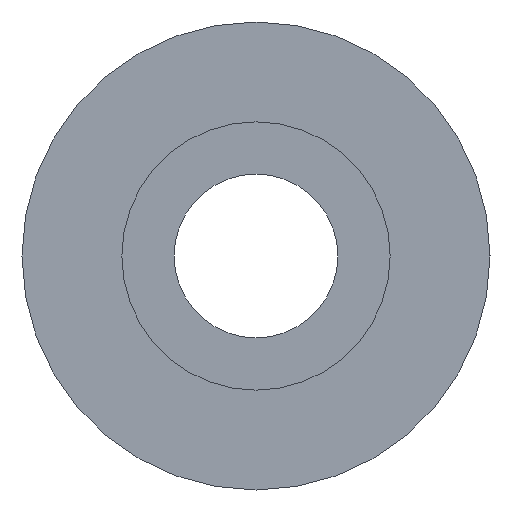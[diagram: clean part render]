
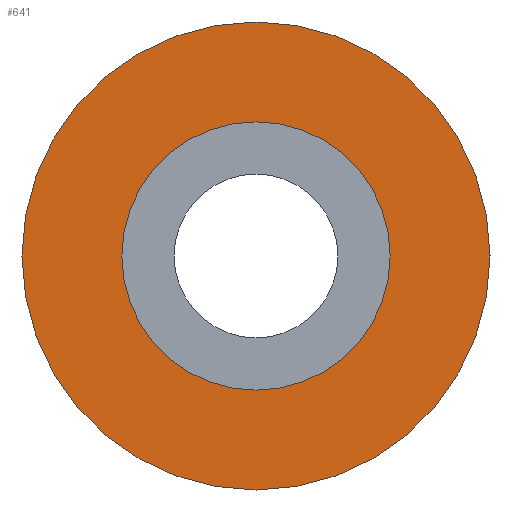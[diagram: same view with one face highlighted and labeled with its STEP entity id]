
A CAD part, left-side view. The second image highlights one B-rep face of the part: STEP entity #641.
In plain terms, the highlighted planar face has unit normal (-1, 0, 0).
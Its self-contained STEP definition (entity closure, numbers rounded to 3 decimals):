
#471=CARTESIAN_POINT('',(0.0,15.0,0.0));
#472=VERTEX_POINT('',#471);
#473=CARTESIAN_POINT('',(0.,0.,0.0));
#474=DIRECTION('',(1.0,0.0,0.0));
#475=DIRECTION('',(0.0,1.0,0.0));
#476=AXIS2_PLACEMENT_3D('',#473,#474,#475);
#477=CIRCLE('',#476,15.0);
#478=EDGE_CURVE('',#472,#472,#477,.T.);
#615=CARTESIAN_POINT('',(0.0,8.6,0.0));
#616=VERTEX_POINT('',#615);
#617=CARTESIAN_POINT('',(0.,0.,0.0));
#618=DIRECTION('',(1.0,0.0,0.0));
#619=DIRECTION('',(0.0,1.0,0.0));
#620=AXIS2_PLACEMENT_3D('',#617,#618,#619);
#621=CIRCLE('',#620,8.6);
#622=EDGE_CURVE('',#616,#616,#621,.T.);
#630=CARTESIAN_POINT('',(0.0,11.8,0.0));
#631=DIRECTION('',(-1.0,0.0,0.0));
#632=DIRECTION('',(0.0,0.0,1.0));
#633=AXIS2_PLACEMENT_3D('',#630,#631,#632);
#634=PLANE('',#633);
#635=ORIENTED_EDGE('',*,*,#478,.F.);
#636=EDGE_LOOP('',(#635));
#637=FACE_OUTER_BOUND('',#636,.T.);
#638=ORIENTED_EDGE('',*,*,#622,.T.);
#639=EDGE_LOOP('',(#638));
#640=FACE_BOUND('',#639,.T.);
#641=ADVANCED_FACE('',(#637,#640),#634,.T.);
